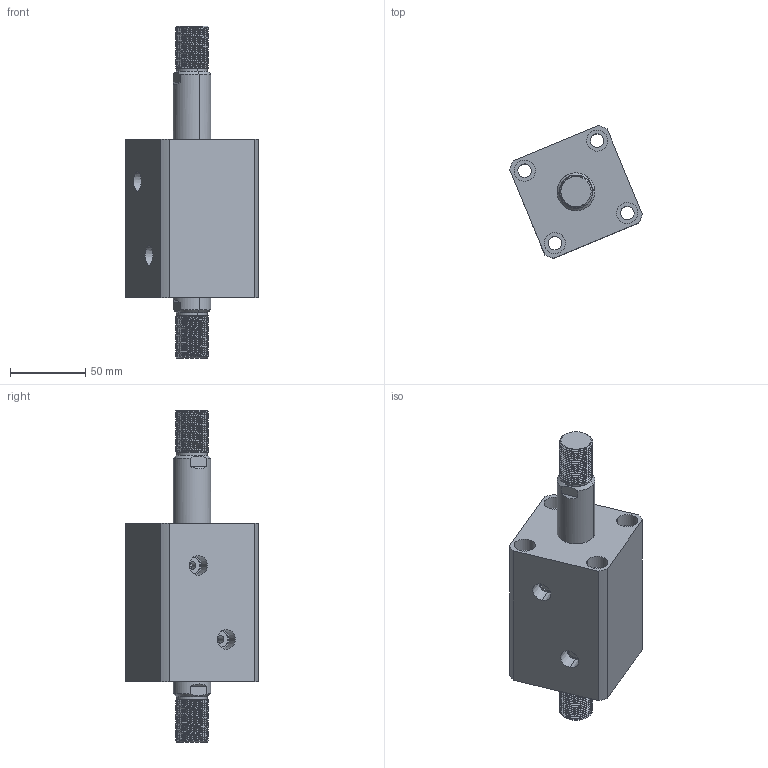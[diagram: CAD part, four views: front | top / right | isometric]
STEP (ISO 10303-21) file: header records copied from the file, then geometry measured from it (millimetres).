
FILE_DESCRIPTION (( 'STEP AP214' ), '1' );
FILE_NAME ('chtb-sw40x35w_asm.STEP', '2018-06-08T10:06:49', ( 'Windows' ), ( 'Microsoft' ), 'SwSTEP 2.0', 'SolidWorks 2015', '' );
FILE_SCHEMA (( 'AUTOMOTIVE_DESIGN' ));
Length unit declared in the file: millimetre
Products named in the file (4): CHTB-SW40X35NHSG; CHTB-SW40X35NBT; CHTB-SD40QG; chtb-sw40x35w_asm
Assembly tree (3 placements, depth 2):
  chtb-sw40x35w_asm
    CHTB-SD40QG
    CHTB-SW40X35NBT
    CHTB-SW40X35NHSG
Bounding box: 88.11 x 88.11 x 220 mm (x, y, z)
Volume: 493642.9 mm3; surface area: 95984.9 mm2
Topology: 3 solids, 3 shells, 254 faces, 680 edges, 452 vertices
Faces by surface type: cylinder 160, plane 46, bspline 18, cone 18, torus 12
Entity records: 17389 total; most frequent: CARTESIAN_POINT 11402, ORIENTED_EDGE 1348, DIRECTION 1094, EDGE_CURVE 674, VERTEX_POINT 452, AXIS2_PLACEMENT_3D 443, EDGE_LOOP 296, FACE_OUTER_BOUND 254
